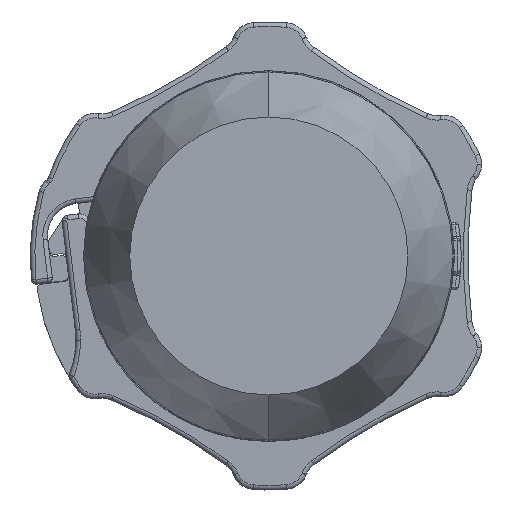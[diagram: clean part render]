
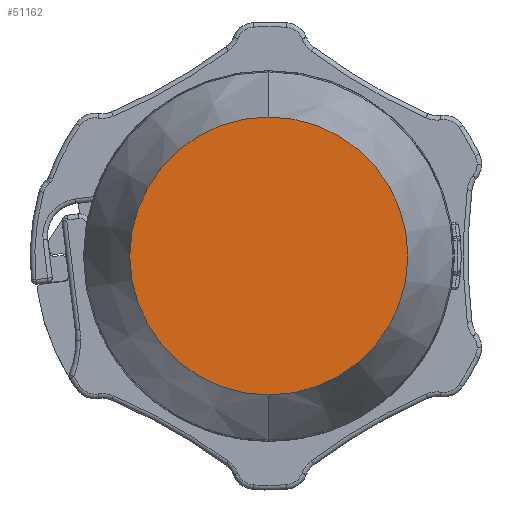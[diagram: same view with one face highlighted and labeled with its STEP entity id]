
A CAD part, front view. The second image highlights one B-rep face of the part: STEP entity #51162.
In plain terms, the highlighted planar face has unit normal (0, -1, 0).
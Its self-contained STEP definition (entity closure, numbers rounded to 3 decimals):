
#870 = CARTESIAN_POINT ( 'NONE',  ( 0., -34., 0. ) ) ;
#2313 = AXIS2_PLACEMENT_3D ( 'NONE', #870, #20350, #49652 ) ;
#3607 = EDGE_CURVE ( 'NONE', #49273, #30358, #54229, .T. ) ;
#9525 = DIRECTION ( 'NONE',  ( 0., 0., -1. ) ) ;
#13991 = PLANE ( 'NONE',  #22606 ) ;
#18566 = ORIENTED_EDGE ( 'NONE', *, *, #33332, .T. ) ;
#20350 = DIRECTION ( 'NONE',  ( 0., -1., 0. ) ) ;
#22606 = AXIS2_PLACEMENT_3D ( 'NONE', #33423, #22926, #33737 ) ;
#22926 = DIRECTION ( 'NONE',  ( 0., -1., 0. ) ) ;
#23229 = FACE_OUTER_BOUND ( 'NONE', #35222, .T. ) ;
#30358 = VERTEX_POINT ( 'NONE', #57456 ) ;
#30581 = CARTESIAN_POINT ( 'NONE',  ( 0., -34., -6. ) ) ;
#33332 = EDGE_CURVE ( 'NONE', #30358, #49273, #61438, .T. ) ;
#33423 = CARTESIAN_POINT ( 'NONE',  ( 6., -34., 0. ) ) ;
#33737 = DIRECTION ( 'NONE',  ( 0., 0., -1. ) ) ;
#35222 = EDGE_LOOP ( 'NONE', ( #18566, #52675 ) ) ;
#39032 = AXIS2_PLACEMENT_3D ( 'NONE', #57327, #53185, #9525 ) ;
#49273 = VERTEX_POINT ( 'NONE', #30581 ) ;
#49652 = DIRECTION ( 'NONE',  ( 0., 0., -1. ) ) ;
#51162 = ADVANCED_FACE ( 'NONE', ( #23229 ), #13991, .T. ) ;
#52675 = ORIENTED_EDGE ( 'NONE', *, *, #3607, .T. ) ;
#53185 = DIRECTION ( 'NONE',  ( 0., -1., 0. ) ) ;
#54229 = CIRCLE ( 'NONE', #2313, 6. ) ;
#57327 = CARTESIAN_POINT ( 'NONE',  ( 0., -34., 0. ) ) ;
#57456 = CARTESIAN_POINT ( 'NONE',  ( 0., -34., 6. ) ) ;
#61438 = CIRCLE ( 'NONE', #39032, 6. ) ;
